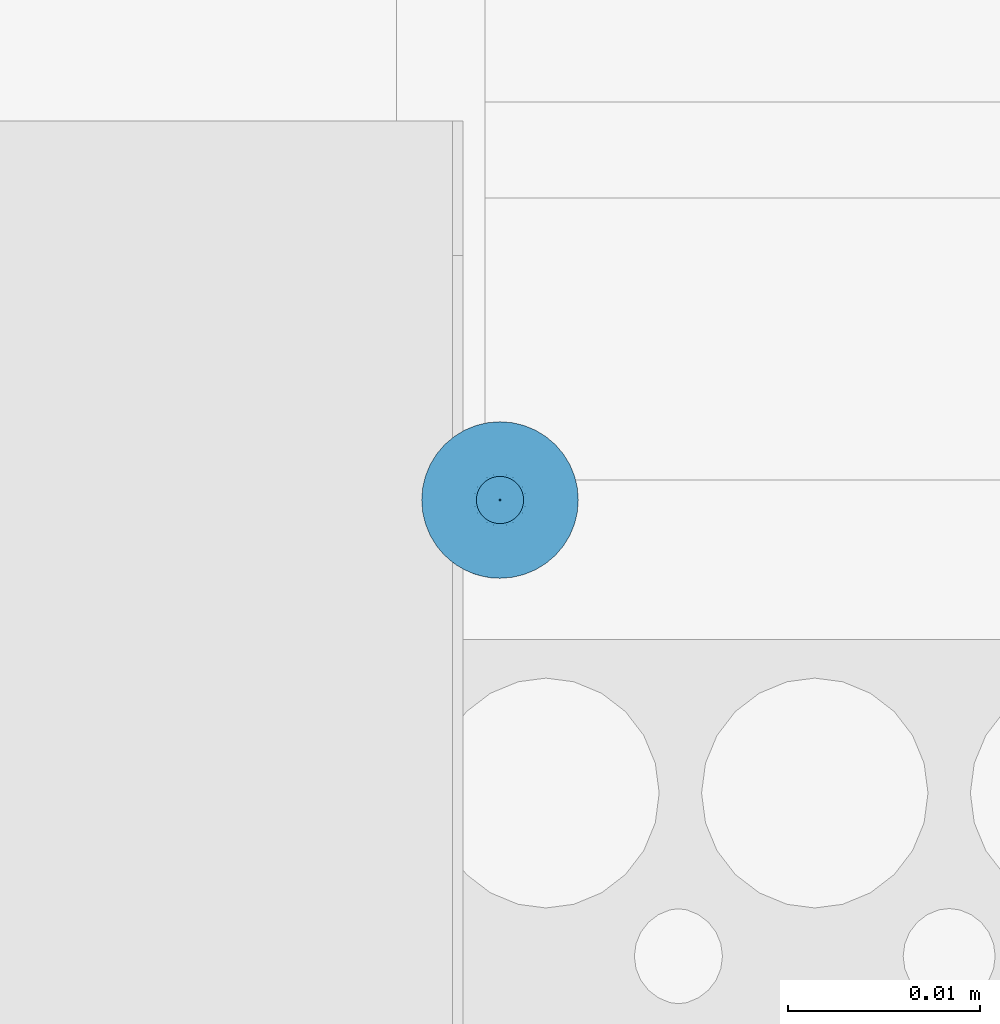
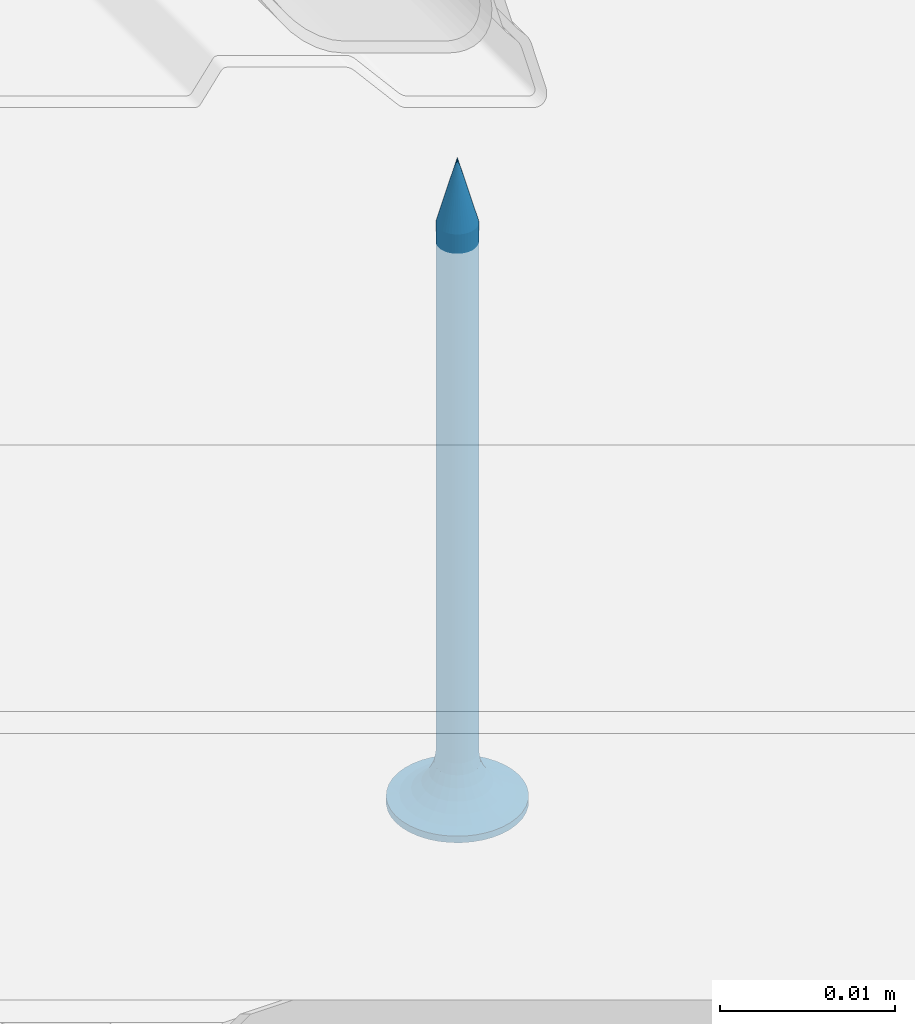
# One storey, part 55 of 73: 1 slab.
"""IFC2X3 building model written with IfcOpenShell, lengths in millimetres."""

from ifc_helpers import new_model, entity, si_unit, converted_unit, direction, frame, origin, origin_with_axes, place, context, project, spatial, faceted_brep, element, save


model = new_model("IFC2X3")

# Units and contexts
model_context = context("Model", 3, precision=1e-05, world=origin(), true_north=direction((0.0, 1.0, 0.0)))
ifc_project = project(units=[si_unit("LENGTHUNIT", "METRE", prefix="MILLI"), si_unit("AREAUNIT", "SQUARE_METRE"), si_unit("VOLUMEUNIT", "CUBIC_METRE"), converted_unit("PLANEANGLEUNIT", "DEGREE", entity("IfcPlaneAngleMeasure", 0.01745), si_unit("PLANEANGLEUNIT", "RADIAN"), dimensions=[0, 0, 0, 0, 0, 0, 0]), si_unit("SOLIDANGLEUNIT", "STERADIAN"), si_unit("MASSUNIT", "GRAM"), si_unit("TIMEUNIT", "SECOND"), si_unit("THERMODYNAMICTEMPERATUREUNIT", "DEGREE_CELSIUS"), si_unit("LUMINOUSINTENSITYUNIT", "LUMEN")], contexts=[model_context])

# Site, building, storey
site_placement = place(None, origin_with_axes())
site = spatial("IfcSite", under=ifc_project, at=site_placement, Name="Default Site", CompositionType="ELEMENT")
building_placement = place(site_placement, origin_with_axes())
building = spatial("IfcBuilding", under=site, at=building_placement, Name="Default Building", CompositionType="ELEMENT")
storey_placement = place(building_placement, origin_with_axes())
storey = spatial("IfcBuildingStorey", under=building, at=storey_placement, Name="Default Building Storey", CompositionType="ELEMENT", Elevation=0.0)

# Slab
slab_placement = place(storey_placement, frame((3434.616074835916, 1061.707168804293, 4357.873511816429), z_axis=(0.0, 1.0, 2.220446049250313e-16), x_axis=(1.0, -1.802054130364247e-31, 8.115730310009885e-16)))
element("IfcSlab", 1, at=slab_placement, inside=storey, Name="Wkręt RIGIPS TN 45", context=model_context, shape_type="Brep", body=[
    faceted_brep([(-137.6517277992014, 3387.475459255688, 554.5845305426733), (-137.6517277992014, 3350.55807436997, 554.5845305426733), (-137.83949897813, 3350.55807436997, 554.6296104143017), (-137.8394989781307, 3387.475459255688, 554.6296104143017), (-137.4592163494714, 3387.475459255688, 557.0306204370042), (-137.4592163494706, 3350.55807436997, 557.0306204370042), (-137.2667048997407, 3350.55807436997, 557.0154694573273), (-137.2667048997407, 3387.475459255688, 557.0154694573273), (-138.3293964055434, 3350.55807436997, 554.9298199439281), (-138.4548091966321, 3350.55807436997, 555.0766594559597), (-138.4548091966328, 3387.475459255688, 555.0766594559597), (-138.3293964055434, 3387.475459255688, 554.9298199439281), (-136.9005263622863, 3387.475459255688, 554.7035091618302), (-136.9005263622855, 3350.55807436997, 554.7035091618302), (-137.0789337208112, 3350.55807436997, 554.6296104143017), (-137.078933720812, 3387.475459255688, 554.6296104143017), (-138.5557071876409, 3350.55807436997, 555.241310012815), (-138.5557071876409, 3387.475459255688, 555.241310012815), (-136.7358758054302, 3387.475459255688, 554.8044071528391), (-136.7358758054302, 3350.55807436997, 554.8044071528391), (-136.9005263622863, 3387.475459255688, 556.8964908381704), (-136.9005263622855, 3350.55807436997, 556.8964908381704), (-136.7358758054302, 3350.55807436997, 556.7955928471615), (-136.7358758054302, 3387.475459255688, 556.7955928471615), (-138.6746858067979, 3350.55807436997, 555.6074885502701), (-138.6898367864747, 3350.55807436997, 555.8000000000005), (-138.6898367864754, 3387.475459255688, 555.8000000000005), (-138.6746858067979, 3387.475459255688, 555.6074885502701), (-138.0179063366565, 3387.475459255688, 554.7035091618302), (-138.0179063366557, 3350.55807436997, 554.7035091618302), (-138.1825568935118, 3350.55807436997, 554.8044071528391), (-138.1825568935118, 3387.475459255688, 554.8044071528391), (-136.5890362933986, 3350.55807436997, 556.6701800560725), (-136.5890362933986, 3387.475459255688, 556.6701800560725), (-136.5890362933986, 3387.475459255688, 554.9298199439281), (-136.5890362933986, 3350.55807436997, 554.9298199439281), (-136.4636235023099, 3387.475459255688, 555.0766594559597), (-136.3627255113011, 3387.475459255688, 555.241310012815), (-136.3627255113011, 3350.55807436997, 555.241310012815), (-136.4636235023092, 3350.55807436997, 555.0766594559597), (-138.4548091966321, 3350.55807436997, 556.5233405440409), (-138.3293964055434, 3350.55807436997, 556.6701800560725), (-138.3293964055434, 3387.475459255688, 556.6701800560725), (-138.4548091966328, 3387.475459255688, 556.5233405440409), (-136.2888267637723, 3387.475459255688, 555.4197173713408), (-136.2437468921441, 3387.475459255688, 555.6074885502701), (-136.2437468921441, 3350.55807436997, 555.6074885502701), (-136.2888267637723, 3350.55807436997, 555.4197173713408), (-136.3627255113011, 3387.475459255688, 556.3586899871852), (-136.4636235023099, 3387.475459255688, 556.5233405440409), (-136.4636235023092, 3350.55807436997, 556.5233405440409), (-136.3627255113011, 3350.55807436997, 556.3586899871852), (-137.078933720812, 3387.475459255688, 556.9703895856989), (-137.0789337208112, 3350.55807436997, 556.9703895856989), (-137.2667048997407, 3387.475459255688, 554.5845305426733), (-137.2667048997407, 3350.55807436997, 554.5845305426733), (-137.4592163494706, 3350.55807436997, 554.5693795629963), (-137.4592163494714, 3387.475459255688, 554.5693795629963), (-138.6296059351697, 3350.55807436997, 555.4197173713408), (-138.6296059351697, 3387.475459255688, 555.4197173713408), (-136.2285959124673, 3387.475459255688, 555.8000000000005), (-136.2437468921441, 3387.475459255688, 555.9925114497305), (-136.2437468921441, 3350.55807436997, 555.9925114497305), (-136.2285959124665, 3350.55807436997, 555.8000000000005), (-137.8394989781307, 3387.475459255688, 556.9703895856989), (-137.83949897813, 3350.55807436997, 556.9703895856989), (-137.6517277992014, 3350.55807436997, 557.0154694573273), (-137.6517277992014, 3387.475459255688, 557.0154694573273), (-138.1825568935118, 3350.55807436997, 556.7955928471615), (-138.1825568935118, 3387.475459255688, 556.7955928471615), (-138.0179063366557, 3350.55807436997, 556.8964908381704), (-138.0179063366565, 3387.475459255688, 556.8964908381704), (-136.2888267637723, 3387.475459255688, 556.1802826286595), (-136.2888267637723, 3350.55807436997, 556.1802826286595), (-138.6746858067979, 3350.55807436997, 555.9925114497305), (-138.6746858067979, 3387.475459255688, 555.9925114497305), (-138.6296059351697, 3350.55807436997, 556.1802826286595), (-138.6296059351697, 3387.475459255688, 556.1802826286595), (-138.5557071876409, 3350.55807436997, 556.3586899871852), (-138.5557071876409, 3387.475459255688, 556.3586899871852), (-141.5377463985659, 3390.556721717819, 555.8000000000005), (-141.5377463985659, 3391.020944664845, 555.8000000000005), (-141.4875329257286, 3391.020944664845, 555.1619773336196), (-141.4875329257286, 3390.556721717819, 555.1619773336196), (-141.338128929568, 3391.020944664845, 554.539664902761), (-141.338128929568, 3390.556721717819, 554.539664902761), (-141.0932132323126, 3391.020944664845, 553.948386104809), (-141.0932132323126, 3390.556721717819, 553.948386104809), (-140.7588164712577, 3391.020944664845, 553.4027001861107), (-140.7588164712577, 3390.556721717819, 553.4027001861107), (-140.3431726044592, 3391.020944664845, 552.9160437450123), (-140.4541727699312, 3390.556721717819, 553.0314907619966), (-140.1080097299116, 3390.556721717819, 552.6986614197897), (-139.8565161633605, 3391.020944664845, 552.5003998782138), (-139.7251262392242, 3390.556721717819, 552.4088262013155), (-139.3108302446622, 3391.020944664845, 552.1660031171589), (-139.3108302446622, 3390.556721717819, 552.1660031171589), (-138.8708651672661, 3390.556721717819, 551.9735584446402), (-138.7195514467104, 3391.020944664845, 551.9210874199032), (-138.4113302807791, 3390.556721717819, 551.8341600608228), (-137.9385961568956, 3390.556721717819, 551.7497404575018), (-138.0972390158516, 3391.020944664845, 551.7716834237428), (-137.4592163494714, 3391.020944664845, 551.7214699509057), (-137.4592163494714, 3390.556721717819, 551.7214699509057), (-136.8211936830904, 3391.020944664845, 551.7716834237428), (-136.8211936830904, 3390.556721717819, 551.7716834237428), (-136.1988812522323, 3391.020944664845, 551.9210874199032), (-136.1988812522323, 3390.556721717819, 551.9210874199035), (-135.6076024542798, 3391.020944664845, 552.1660031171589), (-135.6076024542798, 3390.556721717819, 552.1660031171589), (-135.0619165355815, 3391.020944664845, 552.5003998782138), (-135.0619165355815, 3390.556721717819, 552.5003998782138), (-134.5752600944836, 3391.020944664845, 552.9160437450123), (-134.5752600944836, 3390.556721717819, 552.9160437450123), (-134.1596162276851, 3391.020944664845, 553.4027001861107), (-134.1596162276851, 3390.556721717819, 553.4027001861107), (-133.8252194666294, 3391.020944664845, 553.948386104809), (-133.8252194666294, 3390.556721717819, 553.948386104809), (-133.580303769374, 3391.020944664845, 554.539664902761), (-133.580303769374, 3390.556721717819, 554.539664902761), (-133.4308997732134, 3391.020944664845, 556.438022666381), (-133.4308997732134, 3390.556721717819, 556.438022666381), (-133.3806863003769, 3390.556721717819, 555.8000000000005), (-133.3806863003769, 3391.020944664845, 555.8000000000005), (-133.4308997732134, 3390.556721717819, 555.1619773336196), (-133.4308997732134, 3391.020944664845, 555.1619773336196), (-133.580303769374, 3391.020944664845, 557.0603350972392), (-133.580303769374, 3390.556721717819, 557.0603350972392), (-133.8252194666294, 3391.020944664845, 557.6516138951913), (-133.8252194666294, 3390.556721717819, 557.6516138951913), (-134.1596162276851, 3391.020944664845, 558.1972998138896), (-134.1596162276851, 3390.556721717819, 558.1972998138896), (-134.5752600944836, 3391.020944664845, 558.683956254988), (-134.5752600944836, 3390.556721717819, 558.683956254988), (-135.0619165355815, 3391.020944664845, 559.0996001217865), (-135.0619165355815, 3390.556721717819, 559.0996001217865), (-135.6076024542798, 3391.020944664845, 559.4339968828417), (-135.6076024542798, 3390.556721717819, 559.4339968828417), (-136.1988812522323, 3391.020944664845, 559.6789125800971), (-136.1988812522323, 3390.556721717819, 559.6789125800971), (-136.8211936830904, 3391.020944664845, 559.8283165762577), (-136.8211936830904, 3390.556721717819, 559.8283165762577), (-137.4592163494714, 3391.020944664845, 559.8785300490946), (-137.4592163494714, 3390.556721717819, 559.8785300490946), (-138.0972390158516, 3391.020944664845, 559.8283165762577), (-138.0972390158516, 3390.556721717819, 559.8283165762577), (-138.7195514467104, 3391.020944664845, 559.6789125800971), (-138.7195514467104, 3390.556721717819, 559.6789125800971), (-139.3108302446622, 3391.020944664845, 559.4339968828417), (-139.3108302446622, 3390.556721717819, 559.4339968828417), (-139.8565161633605, 3391.020944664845, 559.0996001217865), (-139.8565161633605, 3390.556721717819, 559.0996001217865), (-140.3431726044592, 3391.020944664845, 558.683956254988), (-140.3431726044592, 3390.556721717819, 558.683956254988), (-140.7588164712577, 3391.020944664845, 558.1972998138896), (-140.7588164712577, 3390.556721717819, 558.1972998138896), (-141.0932132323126, 3391.020944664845, 557.6516138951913), (-141.0932132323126, 3390.556721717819, 557.6516138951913), (-141.338128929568, 3391.020944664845, 557.0603350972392), (-141.338128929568, 3390.556721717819, 557.0603350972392), (-141.4875329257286, 3391.020944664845, 556.438022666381), (-141.4875329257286, 3390.556721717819, 556.438022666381), (-137.8060615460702, 3388.229732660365, 554.5055560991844), (-137.4592163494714, 3388.229732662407, 554.4598930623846), (-138.1292698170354, 3388.229732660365, 554.6394333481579), (-138.4068150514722, 3388.229732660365, 554.8524012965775), (-138.6197830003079, 3388.229732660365, 555.1299465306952), (-138.7536602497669, 3388.229732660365, 555.4531548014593), (-138.7993232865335, 3388.229732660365, 555.7999999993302), (-138.7536602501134, 3388.229732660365, 556.1468451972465), (-138.6197830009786, 3388.229732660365, 556.4700534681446), (-138.4068150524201, 3388.229732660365, 556.7475987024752), (-138.1292698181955, 3388.229732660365, 556.9605666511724), (-137.8060615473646, 3388.229732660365, 557.0944439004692), (-137.4592163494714, 3388.229732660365, 557.1401069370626), (-137.1123711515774, 3388.229732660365, 557.0944439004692), (-136.7891628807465, 3388.229732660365, 556.9605666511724), (-136.5116176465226, 3388.229732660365, 556.7475987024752), (-136.2986496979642, 3388.229732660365, 556.4700534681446), (-136.1647724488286, 3388.229732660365, 556.1468451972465), (-136.1191094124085, 3388.229732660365, 555.7999999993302), (-136.1647724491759, 3388.229732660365, 555.4531548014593), (-136.2986496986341, 3388.229732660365, 555.1299465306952), (-136.5116176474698, 3388.229732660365, 554.8524012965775), (-136.7891628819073, 3388.229732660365, 554.6394333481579), (-137.1123711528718, 3388.229732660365, 554.5055560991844), (-137.4592163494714, 3388.936142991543, 554.1737111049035), (-137.8801308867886, 3388.936142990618, 554.2291255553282), (-138.2723607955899, 3388.936142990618, 554.39159250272), (-138.6091762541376, 3388.936142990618, 554.6500400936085), (-138.8676238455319, 3388.936142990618, 554.9868555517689), (-139.0300907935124, 3388.936142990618, 555.3790854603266), (-139.0855052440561, 3388.936142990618, 555.7999999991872), (-139.0300907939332, 3388.936142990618, 556.2209145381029), (-138.8676238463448, 3388.936142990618, 556.6131444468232), (-138.6091762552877, 3388.936142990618, 556.949959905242), (-138.2723607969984, 3388.936142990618, 557.2084074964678), (-137.8801308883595, 3388.936142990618, 557.3708744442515), (-137.4592163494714, 3388.936142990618, 557.4262888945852), (-137.0383018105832, 3388.936142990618, 557.3708744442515), (-136.6460719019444, 3388.936142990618, 557.2084074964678), (-136.3092564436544, 3388.936142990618, 556.949959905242), (-136.0508088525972, 3388.936142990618, 556.6131444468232), (-135.8883419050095, 3388.936142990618, 556.2209145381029), (-135.8329274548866, 3388.936142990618, 555.7999999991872), (-135.8883419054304, 3388.936142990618, 555.3790854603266), (-136.0508088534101, 3388.936142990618, 554.9868555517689), (-136.3092564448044, 3388.936142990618, 554.6500400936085), (-136.6460719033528, 3388.936142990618, 554.39159250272), (-137.0383018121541, 3388.936142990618, 554.2291255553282), (-137.4592163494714, 3389.553938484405, 553.727343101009), (-137.9956594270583, 3389.553938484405, 553.7979671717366), (-138.4955447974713, 3389.553938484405, 554.0050264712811), (-138.9248060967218, 3389.553938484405, 554.3344102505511), (-139.2541898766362, 3389.553938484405, 554.7636715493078), (-139.46124917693, 3389.553938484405, 555.2635569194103), (-139.5318732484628, 3389.553938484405, 555.7999999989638), (-139.4612491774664, 3389.553938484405, 556.3364430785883), (-139.2541898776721, 3389.553938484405, 556.8363284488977), (-138.9248060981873, 3389.553938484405, 557.2655897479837), (-138.495544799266, 3389.553938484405, 557.5949735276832), (-137.9956594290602, 3389.553938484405, 557.8020328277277), (-137.4592163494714, 3389.553938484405, 557.8726568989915), (-136.9227732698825, 3389.553938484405, 557.8020328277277), (-136.422887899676, 3389.553938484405, 557.5949735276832), (-135.9936266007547, 3389.553938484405, 557.2655897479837), (-135.6642428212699, 3389.553938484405, 556.8363284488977), (-135.4571835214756, 3389.553938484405, 556.3364430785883), (-135.3865594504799, 3389.553938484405, 555.7999999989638), (-135.457183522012, 3389.553938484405, 555.2635569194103), (-135.6642428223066, 3389.553938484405, 554.7636715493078), (-135.9936266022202, 3389.553938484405, 554.3344102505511), (-136.4228879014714, 3389.553938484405, 554.0050264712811), (-136.9227732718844, 3389.553938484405, 553.7979671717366), (-137.4592163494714, 3390.04747944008, 553.1465393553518), (-138.1459824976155, 3390.047479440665, 553.2369538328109), (-138.7859466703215, 3390.047479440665, 553.5020356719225), (-139.3354963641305, 3390.047479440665, 553.9237199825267), (-139.757180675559, 3390.047479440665, 554.4732696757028), (-140.0222625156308, 3390.047479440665, 555.1132338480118), (-140.1126769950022, 3390.047479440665, 555.7999999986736), (-140.0222625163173, 3390.047479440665, 556.4867661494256), (-139.7571806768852, 3390.047479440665, 557.1267303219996), (-139.3354963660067, 3390.047479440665, 557.6762800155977), (-138.7859466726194, 3390.047479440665, 558.0979643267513), (-138.1459825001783, 3390.047479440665, 558.3630461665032), (-137.4592163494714, 3390.047479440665, 558.4534606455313), (-136.7724501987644, 3390.047479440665, 558.3630461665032), (-136.1324860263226, 3390.047479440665, 558.0979643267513), (-135.5829363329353, 3390.047479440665, 557.6762800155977), (-135.1612520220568, 3390.047479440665, 557.1267303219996), (-134.8961701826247, 3390.047479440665, 556.4867661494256), (-134.8057557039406, 3390.047479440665, 555.7999999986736), (-134.8961701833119, 3390.047479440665, 555.1132338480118), (-135.1612520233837, 3390.047479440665, 554.4732696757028), (-135.5829363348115, 3390.047479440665, 553.9237199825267), (-136.1324860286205, 3390.047479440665, 553.5020356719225), (-136.7724502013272, 3390.047479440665, 553.2369538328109), (-137.4592163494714, 3390.388294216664, 552.4648055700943), (-138.3224281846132, 3390.388294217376, 552.5784495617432), (-139.1268135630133, 3390.388294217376, 552.9116368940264), (-139.8175549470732, 3390.388294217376, 553.4416613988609), (-140.3475794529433, 3390.388294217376, 554.1324027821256), (-140.6807667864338, 3390.388294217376, 554.9367881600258), (-140.7944107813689, 3390.388294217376, 555.7999999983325), (-140.6807667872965, 3390.388294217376, 556.6632118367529), (-140.3475794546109, 3390.388294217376, 557.4675972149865), (-139.8175549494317, 3390.388294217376, 558.1583385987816), (-139.1268135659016, 3390.388294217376, 558.6883631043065), (-138.3224281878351, 3390.388294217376, 559.0215504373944), (-137.4592163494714, 3390.388294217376, 559.1351944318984), (-136.5960045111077, 3390.388294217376, 559.0215504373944), (-135.7916191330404, 3390.388294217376, 558.6883631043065), (-135.1008777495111, 3390.388294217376, 558.1583385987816), (-134.5708532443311, 3390.388294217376, 557.4675972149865), (-134.2376659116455, 3390.388294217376, 556.6632118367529), (-134.1240219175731, 3390.388294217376, 555.7999999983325), (-134.2376659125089, 3390.388294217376, 554.9367881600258), (-134.5708532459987, 3390.388294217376, 554.1324027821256), (-135.1008777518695, 3390.388294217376, 553.4416613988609), (-135.7916191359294, 3390.388294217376, 552.9116368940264), (-136.5960045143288, 3390.388294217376, 552.5784495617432), (-137.4592163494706, 3346.021033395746, 555.8000000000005), (-139.9592163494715, 3391.020944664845, 556.3000000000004), (-137.9592163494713, 3391.020944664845, 556.3000000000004), (-139.9592163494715, 3391.020944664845, 555.3000000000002), (-137.9592163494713, 3391.020944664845, 555.3000000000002), (-137.9592163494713, 3391.020944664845, 553.3000000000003), (-136.9592163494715, 3391.020944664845, 553.3000000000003), (-136.9592163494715, 3391.020944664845, 555.3000000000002), (-134.9592163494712, 3391.020944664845, 555.3000000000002), (-134.9592163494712, 3391.020944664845, 556.3000000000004), (-136.9592163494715, 3391.020944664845, 556.3000000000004), (-136.9592163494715, 3391.020944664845, 558.3000000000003), (-137.9592163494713, 3391.020944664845, 558.3000000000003), (-136.9592163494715, 3390.128974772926, 556.3000000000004), (-134.9592163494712, 3390.128974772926, 556.3000000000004), (-134.9592163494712, 3390.128974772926, 555.3000000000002), (-136.9592163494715, 3390.128974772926, 555.3000000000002), (-136.9592163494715, 3390.128974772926, 553.3000000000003), (-137.9592163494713, 3390.128974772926, 553.3000000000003), (-137.9592163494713, 3390.128974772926, 555.3000000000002), (-139.9592163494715, 3390.128974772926, 555.3000000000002), (-139.9592163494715, 3390.128974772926, 556.3000000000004), (-137.9592163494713, 3390.128974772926, 556.3000000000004), (-137.9592163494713, 3390.128974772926, 558.3000000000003), (-136.9592163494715, 3390.128974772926, 558.3000000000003)], [[[0, 1, 2, 3]], [[4, 5, 6, 7]], [[8, 9, 10, 11]], [[12, 13, 14, 15]], [[9, 16, 17, 10]], [[18, 19, 13, 12]], [[20, 21, 22, 23]], [[24, 25, 26, 27]], [[28, 29, 30, 31]], [[3, 2, 29, 28]], [[23, 22, 32, 33]], [[34, 35, 19, 18]], [[36, 37, 38, 39]], [[40, 41, 42, 43]], [[44, 45, 46, 47]], [[48, 49, 50, 51]], [[52, 53, 21, 20]], [[54, 55, 56, 57]], [[58, 24, 27, 59]], [[60, 61, 62, 63]], [[57, 56, 1, 0]], [[37, 44, 47, 38]], [[45, 60, 63, 46]], [[64, 65, 66, 67]], [[42, 41, 68, 69]], [[49, 33, 32, 50]], [[69, 68, 70, 71]], [[15, 14, 55, 54]], [[34, 36, 39, 35]], [[31, 30, 8, 11]], [[72, 48, 51, 73]], [[71, 70, 65, 64]], [[67, 66, 5, 4]], [[25, 74, 75, 26]], [[61, 72, 73, 62]], [[74, 76, 77, 75]], [[16, 58, 59, 17]], [[76, 78, 79, 77]], [[7, 6, 53, 52]], [[78, 40, 43, 79]], [[80, 81, 82, 83]], [[84, 85, 83, 82]], [[86, 87, 85, 84]], [[87, 86, 88, 89]], [[88, 90, 89]], [[90, 91, 89]], [[92, 91, 93]], [[91, 90, 93]], [[93, 94, 92]], [[93, 95, 94]], [[95, 96, 94]], [[97, 96, 98]], [[96, 95, 98]], [[98, 99, 97]], [[100, 99, 101]], [[99, 98, 101]], [[101, 102, 100]], [[102, 103, 100]], [[103, 102, 104, 105]], [[106, 107, 105, 104]], [[108, 109, 107, 106]], [[109, 108, 110, 111]], [[112, 113, 111, 110]], [[113, 112, 114, 115]], [[116, 117, 115, 114]], [[118, 119, 117, 116]], [[120, 121, 122, 123]], [[123, 122, 124, 125]], [[119, 118, 125, 124]], [[126, 127, 121, 120]], [[128, 129, 127, 126]], [[129, 128, 130, 131]], [[132, 133, 131, 130]], [[133, 132, 134, 135]], [[136, 137, 135, 134]], [[138, 139, 137, 136]], [[139, 138, 140, 141]], [[142, 143, 141, 140]], [[143, 142, 144, 145]], [[146, 147, 145, 144]], [[148, 149, 147, 146]], [[149, 148, 150, 151]], [[152, 153, 151, 150]], [[153, 152, 154, 155]], [[156, 157, 155, 154]], [[158, 159, 157, 156]], [[159, 158, 160, 161]], [[81, 80, 161, 160]], [[162, 57, 0]], [[162, 163, 57]], [[0, 3, 162]], [[162, 3, 164]], [[28, 164, 3]], [[164, 28, 31]], [[31, 165, 164]], [[31, 11, 165]], [[166, 11, 10]], [[166, 165, 11]], [[10, 17, 166]], [[166, 17, 167]], [[59, 167, 17]], [[167, 59, 27]], [[27, 168, 167]], [[27, 26, 168]], [[169, 26, 75]], [[169, 168, 26]], [[75, 77, 169]], [[169, 77, 170]], [[79, 170, 77]], [[170, 79, 43]], [[43, 171, 170]], [[43, 42, 171]], [[172, 42, 69]], [[172, 171, 42]], [[69, 71, 172]], [[172, 71, 173]], [[64, 173, 71]], [[173, 64, 67]], [[67, 174, 173]], [[67, 4, 174]], [[175, 4, 7]], [[175, 174, 4]], [[7, 52, 175]], [[175, 52, 176]], [[20, 176, 52]], [[176, 20, 23]], [[23, 177, 176]], [[23, 33, 177]], [[178, 33, 49]], [[178, 177, 33]], [[49, 48, 178]], [[178, 48, 179]], [[72, 179, 48]], [[179, 72, 61]], [[61, 180, 179]], [[61, 60, 180]], [[181, 60, 45]], [[181, 180, 60]], [[45, 44, 181]], [[181, 44, 182]], [[37, 182, 44]], [[182, 37, 36]], [[36, 183, 182]], [[36, 34, 183]], [[184, 34, 18]], [[184, 183, 34]], [[18, 12, 184]], [[184, 12, 185]], [[15, 185, 12]], [[185, 15, 54]], [[54, 163, 185]], [[54, 57, 163]], [[186, 163, 187]], [[162, 187, 163]], [[164, 188, 187, 162]], [[165, 189, 188, 164]], [[166, 190, 189, 165]], [[167, 191, 190, 166]], [[168, 192, 191, 167]], [[169, 193, 192, 168]], [[170, 194, 193, 169]], [[171, 195, 194, 170]], [[172, 196, 195, 171]], [[173, 197, 196, 172]], [[174, 198, 197, 173]], [[175, 199, 198, 174]], [[176, 200, 199, 175]], [[177, 201, 200, 176]], [[178, 202, 201, 177]], [[179, 203, 202, 178]], [[180, 204, 203, 179]], [[181, 205, 204, 180]], [[182, 206, 205, 181]], [[183, 207, 206, 182]], [[184, 208, 207, 183]], [[185, 209, 208, 184]], [[185, 163, 209]], [[186, 209, 163]], [[210, 186, 211]], [[187, 211, 186]], [[188, 212, 211, 187]], [[189, 213, 212, 188]], [[190, 214, 213, 189]], [[191, 215, 214, 190]], [[192, 216, 215, 191]], [[193, 217, 216, 192]], [[194, 218, 217, 193]], [[195, 219, 218, 194]], [[196, 220, 219, 195]], [[197, 221, 220, 196]], [[198, 222, 221, 197]], [[199, 223, 222, 198]], [[200, 224, 223, 199]], [[201, 225, 224, 200]], [[202, 226, 225, 201]], [[203, 227, 226, 202]], [[204, 228, 227, 203]], [[205, 229, 228, 204]], [[206, 230, 229, 205]], [[207, 231, 230, 206]], [[208, 232, 231, 207]], [[209, 233, 232, 208]], [[209, 186, 233]], [[210, 233, 186]], [[234, 210, 235]], [[211, 235, 210]], [[212, 236, 235, 211]], [[213, 237, 236, 212]], [[214, 238, 237, 213]], [[215, 239, 238, 214]], [[216, 240, 239, 215]], [[217, 241, 240, 216]], [[218, 242, 241, 217]], [[219, 243, 242, 218]], [[220, 244, 243, 219]], [[221, 245, 244, 220]], [[222, 246, 245, 221]], [[223, 247, 246, 222]], [[224, 248, 247, 223]], [[225, 249, 248, 224]], [[226, 250, 249, 225]], [[227, 251, 250, 226]], [[228, 252, 251, 227]], [[229, 253, 252, 228]], [[230, 254, 253, 229]], [[231, 255, 254, 230]], [[232, 256, 255, 231]], [[233, 257, 256, 232]], [[233, 210, 257]], [[234, 257, 210]], [[258, 99, 100]], [[258, 259, 99]], [[100, 103, 258]], [[258, 234, 259]], [[235, 259, 234]], [[259, 96, 97]], [[259, 260, 96]], [[97, 99, 259]], [[236, 260, 259, 235]], [[261, 91, 92]], [[260, 92, 94]], [[260, 261, 92]], [[94, 96, 260]], [[237, 261, 260, 236]], [[262, 87, 89]], [[89, 261, 262]], [[89, 91, 261]], [[238, 262, 261, 237]], [[85, 87, 263]], [[262, 263, 87]], [[239, 263, 262, 238]], [[263, 80, 83]], [[263, 264, 80]], [[83, 85, 263]], [[240, 264, 263, 239]], [[265, 159, 161]], [[161, 264, 265]], [[161, 80, 264]], [[241, 265, 264, 240]], [[265, 266, 157, 159]], [[242, 266, 265, 241]], [[266, 153, 155]], [[266, 267, 153]], [[155, 157, 266]], [[243, 267, 266, 242]], [[268, 149, 151]], [[151, 267, 268]], [[151, 153, 267]], [[244, 268, 267, 243]], [[268, 269, 147, 149]], [[245, 269, 268, 244]], [[269, 143, 145]], [[269, 270, 143]], [[145, 147, 269]], [[246, 270, 269, 245]], [[271, 139, 141]], [[141, 270, 271]], [[141, 143, 270]], [[247, 271, 270, 246]], [[271, 272, 137, 139]], [[248, 272, 271, 247]], [[272, 133, 135]], [[272, 273, 133]], [[135, 137, 272]], [[249, 273, 272, 248]], [[274, 129, 131]], [[131, 273, 274]], [[131, 133, 273]], [[250, 274, 273, 249]], [[274, 275, 127, 129]], [[251, 275, 274, 250]], [[275, 122, 121]], [[275, 276, 122]], [[121, 127, 275]], [[252, 276, 275, 251]], [[277, 119, 124]], [[124, 276, 277]], [[124, 122, 276]], [[253, 277, 276, 252]], [[117, 119, 278]], [[277, 278, 119]], [[254, 278, 277, 253]], [[278, 113, 115]], [[278, 279, 113]], [[115, 117, 278]], [[255, 279, 278, 254]], [[280, 109, 111]], [[111, 279, 280]], [[111, 113, 279]], [[256, 280, 279, 255]], [[107, 109, 281]], [[280, 281, 109]], [[257, 281, 280, 256]], [[257, 234, 281]], [[258, 281, 234]], [[281, 103, 105]], [[281, 258, 103]], [[105, 107, 281]], [[24, 58, 282]], [[282, 25, 24]], [[58, 16, 282]], [[9, 8, 282]], [[282, 16, 9]], [[30, 29, 282]], [[282, 8, 30]], [[29, 2, 282]], [[1, 56, 282]], [[282, 2, 1]], [[55, 14, 282]], [[282, 56, 55]], [[14, 13, 282]], [[19, 35, 282]], [[282, 13, 19]], [[39, 38, 282]], [[282, 35, 39]], [[38, 47, 282]], [[46, 63, 282]], [[282, 47, 46]], [[62, 73, 282]], [[282, 63, 62]], [[73, 51, 282]], [[50, 32, 282]], [[282, 51, 50]], [[22, 21, 282]], [[282, 32, 22]], [[21, 53, 282]], [[6, 5, 282]], [[282, 53, 6]], [[66, 65, 282]], [[282, 5, 66]], [[65, 70, 282]], [[68, 41, 282]], [[282, 70, 68]], [[40, 78, 282]], [[282, 41, 40]], [[78, 76, 282]], [[74, 25, 282]], [[282, 76, 74]], [[283, 156, 154, 284]], [[283, 285, 286, 287, 288, 289, 290, 291, 292, 293, 294, 284, 154, 152, 150, 148, 146, 144, 142, 140, 138, 136, 134, 132, 130, 128, 126, 120, 123, 125, 118, 116, 114, 112, 110, 108, 106, 104, 102, 101, 98, 95, 93, 90, 88, 86, 84, 82, 81, 160, 158, 156]], [[295, 296, 297, 298, 299, 300, 301, 302, 303, 304, 305, 306]], [[297, 290, 289, 298]], [[296, 291, 290, 297]], [[295, 292, 291, 296]], [[306, 293, 292, 295]], [[305, 294, 293, 306]], [[304, 284, 294, 305]], [[303, 283, 284, 304]], [[302, 285, 283, 303]], [[301, 286, 285, 302]], [[300, 287, 286, 301]], [[299, 288, 287, 300]], [[298, 289, 288, 299]]]),
])

save(model, "model.ifc")
